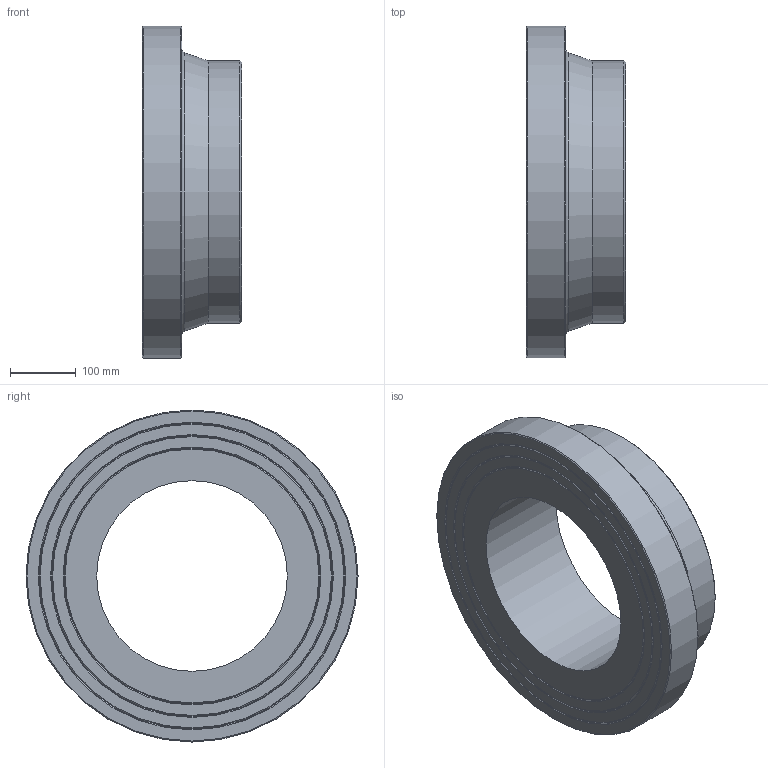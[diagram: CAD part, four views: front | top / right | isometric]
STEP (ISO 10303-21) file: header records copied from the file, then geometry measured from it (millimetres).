
FILE_DESCRIPTION(/* description */ ('Unknown'),/* implementation_level */ '2;1');
FILE_NAME(/* name */ 'CCP400H',/* time_stamp */ '2022-04-04T12:31:47+02:00',/* author */ ('Unknown'),/* organization */ ('Unknown'),/* preprocessor_version */ 'ST-DEVELOPER v18.1',/* originating_system */ 'Solid Edge',/* authorisation */ 'Unknown');
FILE_SCHEMA (('AUTOMOTIVE_DESIGN {1 0 10303 214 3 1 1}'));
Length unit declared in the file: millimetre
Products named in the file (1): CCP400H
Bounding box: 151 x 506 x 506 mm (x, y, z)
Volume: 13823050.2 mm3; surface area: 600888.3 mm2
Topology: 1 solids, 1 shells, 20 faces, 35 edges, 21 vertices
Faces by surface type: cone 10, plane 6, cylinder 3, torus 1
Full cylindrical faces by diameter (mm): 290.6 x1, 400 x1, 506 x1
Entity records: 438 total; most frequent: DIRECTION 82, CARTESIAN_POINT 61, AXIS2_PLACEMENT_3D 41, ORIENTED_EDGE 40, EDGE_LOOP 40, FACE_BOUND 40, EDGE_CURVE 20, VERTEX_POINT 20
